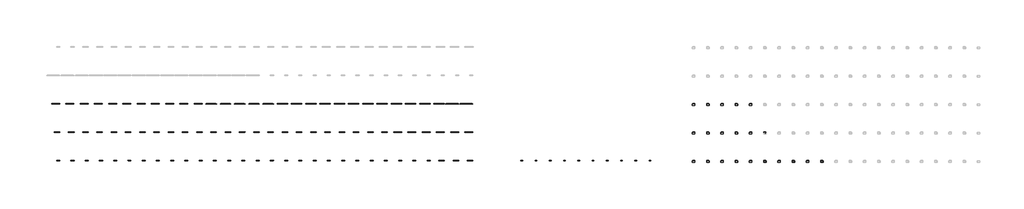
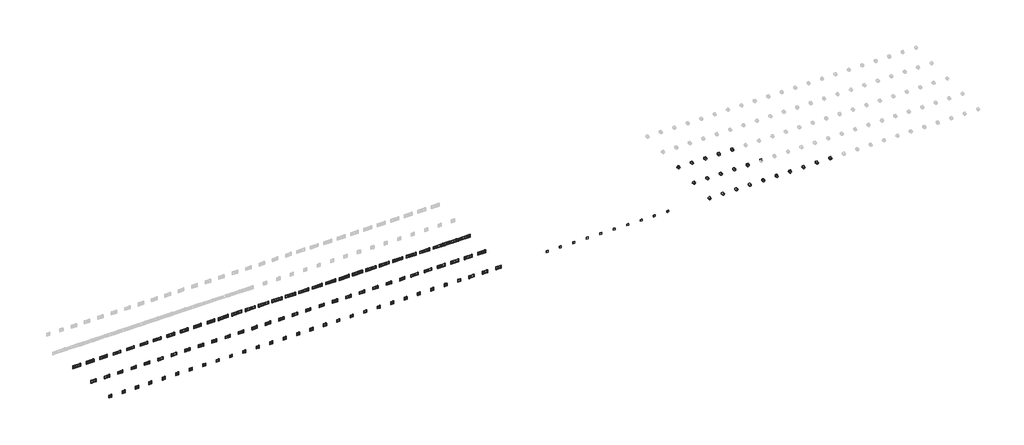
# One storey, part 1 of 18: 121 proxies, 20 cable carrier fittings.
"""IFC4 building model written with IfcOpenShell, lengths in millimetres."""

from ifc_helpers import new_model, si_unit, origin, place, context, project, spatial, transform, mapped, element, save
from components import electrical_fixtures_55454e97, electrical_fixtures_103bd2fc, electrical_fixtures_96edac8a, electrical_fixtures_1388bda7, electrical_fixtures_da87cfc9, electrical_fixtures_1861e07e, electrical_fixtures_9b7fceb6, electrical_fixtures_fd6ee7d0, electrical_fixtures_2faa5ad1, electrical_fixtures_3838953b, electrical_fixtures_1d4d6cfc, electrical_fixtures_3d888c91, electrical_fixtures_f4518cee, electrical_fixtures_062ad867, electrical_fixtures_887a49c7, electrical_fixtures_2bdeffb2, electrical_fixtures_55b0cb72, cable_carrier_fitting_a64d4eba

model = new_model("IFC4")

# Units and contexts
model_context = context("Model", 3, world=origin())
ifc_project = project(units=[si_unit("LENGTHUNIT", "METRE", prefix="MILLI")], contexts=[model_context])

# Site, building, storey
site = spatial("IfcSite", under=ifc_project)
building = spatial("IfcBuilding", under=site)
storey = spatial("IfcBuildingStorey", under=building, Name="Этаж 01", Elevation=0.0)

# Proxies
placement = place(None, origin())
electrical_fixtures_shape = electrical_fixtures_55454e97(model_context)
element("IfcBuildingElementProxy", 1, Name="IEK_Brite_Рамка : x1_РУ-1-Бр беж.-жемч.", ObjectType="IEK_Brite_Рамка : x1_РУ-1-Бр беж.-жемч.", at=placement, inside=storey, context=model_context, shape_type="MappedRepresentation", body=[
    mapped(electrical_fixtures_shape, transform((420.0, -17800.0, 0.0), x_axis=(1.0, 0.0, 0.0), y_axis=(0.0, 1.0, 0.0), z_axis=(0.0, 0.0, 1.0))),
])
element("IfcBuildingElementProxy", 2, Name="IEK_Brite_Рамка : x1_РУ-1-Бр хром-черн.", ObjectType="IEK_Brite_Рамка : x1_РУ-1-Бр хром-черн.", at=placement, inside=storey, context=model_context, shape_type="MappedRepresentation", body=[
    mapped(electrical_fixtures_shape, transform((820.0, -17800.0, 0.0), x_axis=(1.0, 0.0, 0.0), y_axis=(0.0, 1.0, 0.0), z_axis=(0.0, 0.0, 1.0))),
])
element("IfcBuildingElementProxy", 3, Name="IEK_Brite_Рамка : x1_РУ-1-Бр беж.-шамп.", ObjectType="IEK_Brite_Рамка : x1_РУ-1-Бр беж.-шамп.", at=placement, inside=storey, context=model_context, shape_type="MappedRepresentation", body=[
    mapped(electrical_fixtures_shape, transform((1220.0, -17800.0, 0.0), x_axis=(1.0, 0.0, 0.0), y_axis=(0.0, 1.0, 0.0), z_axis=(0.0, 0.0, 1.0))),
])
element("IfcBuildingElementProxy", 4, Name="IEK_Brite_Рамка : x1_РУ-1-Бр бел.-бел.", ObjectType="IEK_Brite_Рамка : x1_РУ-1-Бр бел.-бел.", at=placement, inside=storey, context=model_context, shape_type="MappedRepresentation", body=[
    mapped(electrical_fixtures_shape, transform((1620.0, -17800.0, 0.0), x_axis=(1.0, 0.0, 0.0), y_axis=(0.0, 1.0, 0.0), z_axis=(0.0, 0.0, 1.0))),
])
element("IfcBuildingElementProxy", 5, Name="IEK_Brite_Рамка : x1_РУ-1-Бр алюм.-алюм.", ObjectType="IEK_Brite_Рамка : x1_РУ-1-Бр алюм.-алюм.", at=placement, inside=storey, context=model_context, shape_type="MappedRepresentation", body=[
    mapped(electrical_fixtures_shape, transform((2020.0, -17800.0, 0.0), x_axis=(1.0, 0.0, 0.0), y_axis=(0.0, 1.0, 0.0), z_axis=(0.0, 0.0, 1.0))),
])
electrical_fixtures_2_shape = electrical_fixtures_103bd2fc(model_context)
element("IfcBuildingElementProxy", 6, Name="IEK_Brite_Рамка : x1_РУ-1-БрБ-44 бел.", ObjectType="IEK_Brite_Рамка : x1_РУ-1-БрБ-44 бел.", at=placement, inside=storey, context=model_context, shape_type="MappedRepresentation", body=[
    mapped(electrical_fixtures_2_shape, transform((2420.0, -17800.0, 0.0), x_axis=(1.0, 0.0, 0.0), y_axis=(0.0, 1.0, 0.0), z_axis=(0.0, 0.0, 1.0))),
])
element("IfcBuildingElementProxy", 7, Name="IEK_Brite_Рамка : x1_РУ-1-БрЧ-44 черн.", ObjectType="IEK_Brite_Рамка : x1_РУ-1-БрЧ-44 черн.", at=placement, inside=storey, context=model_context, shape_type="MappedRepresentation", body=[
    mapped(electrical_fixtures_2_shape, transform((2820.0, -17800.0, 0.0), x_axis=(1.0, 0.0, 0.0), y_axis=(0.0, 1.0, 0.0), z_axis=(0.0, 0.0, 1.0))),
])
element("IfcBuildingElementProxy", 8, Name="IEK_Brite_Рамка : x1_РУ-1-БрКр-44 беж.", ObjectType="IEK_Brite_Рамка : x1_РУ-1-БрКр-44 беж.", at=placement, inside=storey, context=model_context, shape_type="MappedRepresentation", body=[
    mapped(electrical_fixtures_2_shape, transform((3220.0, -17800.0, 0.0), x_axis=(1.0, 0.0, 0.0), y_axis=(0.0, 1.0, 0.0), z_axis=(0.0, 0.0, 1.0))),
])
element("IfcBuildingElementProxy", 9, Name="IEK_Brite_Рамка : x1_РУ-1-БрМ-44 мар.", ObjectType="IEK_Brite_Рамка : x1_РУ-1-БрМ-44 мар.", at=placement, inside=storey, context=model_context, shape_type="MappedRepresentation", body=[
    mapped(electrical_fixtures_2_shape, transform((3620.0, -17800.0, 0.0), x_axis=(1.0, 0.0, 0.0), y_axis=(0.0, 1.0, 0.0), z_axis=(0.0, 0.0, 1.0))),
])
element("IfcBuildingElementProxy", 10, Name="IEK_Brite_Рамка : x1_РУ-1-БрЖ-44 жемч.", ObjectType="IEK_Brite_Рамка : x1_РУ-1-БрЖ-44 жемч.", at=placement, inside=storey, context=model_context, shape_type="MappedRepresentation", body=[
    mapped(electrical_fixtures_2_shape, transform((4020.0, -17800.0, 0.0), x_axis=(1.0, 0.0, 0.0), y_axis=(0.0, 1.0, 0.0), z_axis=(0.0, 0.0, 1.0))),
])
element("IfcBuildingElementProxy", 11, Name="IEK_Brite_Рамка : x1_РУ-1-БрШ-44 шамп.", ObjectType="IEK_Brite_Рамка : x1_РУ-1-БрШ-44 шамп.", at=placement, inside=storey, context=model_context, shape_type="MappedRepresentation", body=[
    mapped(electrical_fixtures_2_shape, transform((4420.0, -17800.0, 0.0), x_axis=(1.0, 0.0, 0.0), y_axis=(0.0, 1.0, 0.0), z_axis=(0.0, 0.0, 1.0))),
])
element("IfcBuildingElementProxy", 12, Name="IEK_Brite_Рамка : x1_РУ-1-БрТБ-44 бр.", ObjectType="IEK_Brite_Рамка : x1_РУ-1-БрТБ-44 бр.", at=placement, inside=storey, context=model_context, shape_type="MappedRepresentation", body=[
    mapped(electrical_fixtures_2_shape, transform((4820.0, -17800.0, 0.0), x_axis=(1.0, 0.0, 0.0), y_axis=(0.0, 1.0, 0.0), z_axis=(0.0, 0.0, 1.0))),
])
element("IfcBuildingElementProxy", 13, Name="IEK_Brite_Рамка : x1_РУ-1-БрС-44 сталь", ObjectType="IEK_Brite_Рамка : x1_РУ-1-БрС-44 сталь", at=placement, inside=storey, context=model_context, shape_type="MappedRepresentation", body=[
    mapped(electrical_fixtures_2_shape, transform((5220.0, -17800.0, 0.0), x_axis=(1.0, 0.0, 0.0), y_axis=(0.0, 1.0, 0.0), z_axis=(0.0, 0.0, 1.0))),
])
element("IfcBuildingElementProxy", 14, Name="IEK_Brite_Рамка : x1_РУ-1-БрА-44 алюм.", ObjectType="IEK_Brite_Рамка : x1_РУ-1-БрА-44 алюм.", at=placement, inside=storey, context=model_context, shape_type="MappedRepresentation", body=[
    mapped(electrical_fixtures_2_shape, transform((5620.0, -17800.0, 0.0), x_axis=(1.0, 0.0, 0.0), y_axis=(0.0, 1.0, 0.0), z_axis=(0.0, 0.0, 1.0))),
])
element("IfcBuildingElementProxy", 15, Name="IEK_Brite_Рамка : x1_РУ-1-БрГ-44 граф.", ObjectType="IEK_Brite_Рамка : x1_РУ-1-БрГ-44 граф.", at=placement, inside=storey, context=model_context, shape_type="MappedRepresentation", body=[
    mapped(electrical_fixtures_2_shape, transform((6020.0, -17800.0, 0.0), x_axis=(1.0, 0.0, 0.0), y_axis=(0.0, 1.0, 0.0), z_axis=(0.0, 0.0, 1.0))),
])
electrical_fixtures_3_shape = electrical_fixtures_96edac8a(model_context)
element("IfcBuildingElementProxy", 16, Name="IEK_Brite_Рамка : x1_РУ-1-Бр бел. рифленый", ObjectType="IEK_Brite_Рамка : x1_РУ-1-Бр бел. рифленый", at=placement, inside=storey, context=model_context, shape_type="MappedRepresentation", body=[
    mapped(electrical_fixtures_3_shape, transform((6420.0, -17800.0, 0.0), x_axis=(1.0, 0.0, 0.0), y_axis=(0.0, 1.0, 0.0), z_axis=(0.0, 0.0, 1.0))),
])
element("IfcBuildingElementProxy", 17, Name="IEK_Brite_Рамка : x1_РУ-1-Бр беж. рифленый", ObjectType="IEK_Brite_Рамка : x1_РУ-1-Бр беж. рифленый", at=placement, inside=storey, context=model_context, shape_type="MappedRepresentation", body=[
    mapped(electrical_fixtures_3_shape, transform((6820.0, -17800.0, 0.0), x_axis=(1.0, 0.0, 0.0), y_axis=(0.0, 1.0, 0.0), z_axis=(0.0, 0.0, 1.0))),
])
element("IfcBuildingElementProxy", 18, Name="IEK_Brite_Рамка : x1_РУ-1-БрБ бел.", ObjectType="IEK_Brite_Рамка : x1_РУ-1-БрБ бел.", at=placement, inside=storey, context=model_context, shape_type="MappedRepresentation", body=[
    mapped(electrical_fixtures_2_shape, transform((7220.0, -17800.0, 0.0), x_axis=(1.0, 0.0, 0.0), y_axis=(0.0, 1.0, 0.0), z_axis=(0.0, 0.0, 1.0))),
])
element("IfcBuildingElementProxy", 19, Name="IEK_Brite_Рамка : x1_РУ-1-БрЧ черн.", ObjectType="IEK_Brite_Рамка : x1_РУ-1-БрЧ черн.", at=placement, inside=storey, context=model_context, shape_type="MappedRepresentation", body=[
    mapped(electrical_fixtures_2_shape, transform((7620.0, -17800.0, 0.0), x_axis=(1.0, 0.0, 0.0), y_axis=(0.0, 1.0, 0.0), z_axis=(0.0, 0.0, 1.0))),
])
element("IfcBuildingElementProxy", 20, Name="IEK_Brite_Рамка : x1_РУ-1-БрКр беж.", ObjectType="IEK_Brite_Рамка : x1_РУ-1-БрКр беж.", at=placement, inside=storey, context=model_context, shape_type="MappedRepresentation", body=[
    mapped(electrical_fixtures_2_shape, transform((8020.0, -17800.0, 0.0), x_axis=(1.0, 0.0, 0.0), y_axis=(0.0, 1.0, 0.0), z_axis=(0.0, 0.0, 1.0))),
])
element("IfcBuildingElementProxy", 21, Name="IEK_Brite_Рамка : x1_РУ-1-БрМ мар.", ObjectType="IEK_Brite_Рамка : x1_РУ-1-БрМ мар.", at=placement, inside=storey, context=model_context, shape_type="MappedRepresentation", body=[
    mapped(electrical_fixtures_2_shape, transform((8420.0, -17800.0, 0.0), x_axis=(1.0, 0.0, 0.0), y_axis=(0.0, 1.0, 0.0), z_axis=(0.0, 0.0, 1.0))),
])
element("IfcBuildingElementProxy", 22, Name="IEK_Brite_Рамка : x1_РУ-1-БрЖ жемч.", ObjectType="IEK_Brite_Рамка : x1_РУ-1-БрЖ жемч.", at=placement, inside=storey, context=model_context, shape_type="MappedRepresentation", body=[
    mapped(electrical_fixtures_2_shape, transform((8820.0, -17800.0, 0.0), x_axis=(1.0, 0.0, 0.0), y_axis=(0.0, 1.0, 0.0), z_axis=(0.0, 0.0, 1.0))),
])
element("IfcBuildingElementProxy", 23, Name="IEK_Brite_Рамка : x1_РУ-1-БрШ шамп.", ObjectType="IEK_Brite_Рамка : x1_РУ-1-БрШ шамп.", at=placement, inside=storey, context=model_context, shape_type="MappedRepresentation", body=[
    mapped(electrical_fixtures_2_shape, transform((9220.0, -17800.0, 0.0), x_axis=(1.0, 0.0, 0.0), y_axis=(0.0, 1.0, 0.0), z_axis=(0.0, 0.0, 1.0))),
])
element("IfcBuildingElementProxy", 24, Name="IEK_Brite_Рамка : x1_РУ-1-БрТБ бр.", ObjectType="IEK_Brite_Рамка : x1_РУ-1-БрТБ бр.", at=placement, inside=storey, context=model_context, shape_type="MappedRepresentation", body=[
    mapped(electrical_fixtures_2_shape, transform((9620.0, -17800.0, 0.0), x_axis=(1.0, 0.0, 0.0), y_axis=(0.0, 1.0, 0.0), z_axis=(0.0, 0.0, 1.0))),
])
element("IfcBuildingElementProxy", 25, Name="IEK_Brite_Рамка : x1_РУ-1-БрС сталь", ObjectType="IEK_Brite_Рамка : x1_РУ-1-БрС сталь", at=placement, inside=storey, context=model_context, shape_type="MappedRepresentation", body=[
    mapped(electrical_fixtures_2_shape, transform((10020.0, -17800.0, 0.0), x_axis=(1.0, 0.0, 0.0), y_axis=(0.0, 1.0, 0.0), z_axis=(0.0, 0.0, 1.0))),
])
element("IfcBuildingElementProxy", 26, Name="IEK_Brite_Рамка : x1_РУ-1-БрА алюм.", ObjectType="IEK_Brite_Рамка : x1_РУ-1-БрА алюм.", at=placement, inside=storey, context=model_context, shape_type="MappedRepresentation", body=[
    mapped(electrical_fixtures_2_shape, transform((10420.0, -17800.0, 0.0), x_axis=(1.0, 0.0, 0.0), y_axis=(0.0, 1.0, 0.0), z_axis=(0.0, 0.0, 1.0))),
])
element("IfcBuildingElementProxy", 27, Name="IEK_Brite_Рамка : x1_РУ-1-БрГ граф.", ObjectType="IEK_Brite_Рамка : x1_РУ-1-БрГ граф.", at=placement, inside=storey, context=model_context, shape_type="MappedRepresentation", body=[
    mapped(electrical_fixtures_2_shape, transform((10820.0, -17800.0, 0.0), x_axis=(1.0, 0.0, 0.0), y_axis=(0.0, 1.0, 0.0), z_axis=(0.0, 0.0, 1.0))),
])
electrical_fixtures_4_shape = electrical_fixtures_1388bda7(model_context)
element("IfcBuildingElementProxy", 28, Name="IEK_Brite_Рамка : x2_РУ-2-Бр беж.-жемч.", ObjectType="IEK_Brite_Рамка : x2_РУ-2-Бр беж.-жемч.", at=placement, inside=storey, context=model_context, shape_type="MappedRepresentation", body=[
    mapped(electrical_fixtures_4_shape, transform((11220.0, -17800.0, 0.0), x_axis=(1.0, 0.0, 0.0), y_axis=(0.0, 1.0, 0.0), z_axis=(0.0, 0.0, 1.0))),
])
element("IfcBuildingElementProxy", 29, Name="IEK_Brite_Рамка : x2_РУ-2-Бр хром-черн.", ObjectType="IEK_Brite_Рамка : x2_РУ-2-Бр хром-черн.", at=placement, inside=storey, context=model_context, shape_type="MappedRepresentation", body=[
    mapped(electrical_fixtures_4_shape, transform((11620.0, -17800.0, 0.0), x_axis=(1.0, 0.0, 0.0), y_axis=(0.0, 1.0, 0.0), z_axis=(0.0, 0.0, 1.0))),
])
element("IfcBuildingElementProxy", 30, Name="IEK_Brite_Рамка : x2_РУ-2-Бр беж.-шамп.", ObjectType="IEK_Brite_Рамка : x2_РУ-2-Бр беж.-шамп.", at=placement, inside=storey, context=model_context, shape_type="MappedRepresentation", body=[
    mapped(electrical_fixtures_4_shape, transform((12020.0, -17800.0, 0.0), x_axis=(1.0, 0.0, 0.0), y_axis=(0.0, 1.0, 0.0), z_axis=(0.0, 0.0, 1.0))),
])
element("IfcBuildingElementProxy", 31, Name="IEK_Brite_Рамка : x2_РУ-2-Бр бел.-бел.", ObjectType="IEK_Brite_Рамка : x2_РУ-2-Бр бел.-бел.", at=placement, inside=storey, context=model_context, shape_type="MappedRepresentation", body=[
    mapped(electrical_fixtures_4_shape, transform((420.0, -17000.0, 0.0), x_axis=(1.0, 0.0, 0.0), y_axis=(0.0, 1.0, 0.0), z_axis=(0.0, 0.0, 1.0))),
])
element("IfcBuildingElementProxy", 32, Name="IEK_Brite_Рамка : x2_РУ-2-Бр алюм.-алюм.", ObjectType="IEK_Brite_Рамка : x2_РУ-2-Бр алюм.-алюм.", at=placement, inside=storey, context=model_context, shape_type="MappedRepresentation", body=[
    mapped(electrical_fixtures_4_shape, transform((820.0, -17000.0, 0.0), x_axis=(1.0, 0.0, 0.0), y_axis=(0.0, 1.0, 0.0), z_axis=(0.0, 0.0, 1.0))),
])
electrical_fixtures_5_shape = electrical_fixtures_da87cfc9(model_context)
element("IfcBuildingElementProxy", 33, Name="IEK_Brite_Рамка : x2_РУ-2-БрБ-44 бел.", ObjectType="IEK_Brite_Рамка : x2_РУ-2-БрБ-44 бел.", at=placement, inside=storey, context=model_context, shape_type="MappedRepresentation", body=[
    mapped(electrical_fixtures_5_shape, transform((1220.0, -17000.0, 0.0), x_axis=(1.0, 0.0, 0.0), y_axis=(0.0, 1.0, 0.0), z_axis=(0.0, 0.0, 1.0))),
])
element("IfcBuildingElementProxy", 34, Name="IEK_Brite_Рамка : x2_РУ-2-БрЧ-44 черн.", ObjectType="IEK_Brite_Рамка : x2_РУ-2-БрЧ-44 черн.", at=placement, inside=storey, context=model_context, shape_type="MappedRepresentation", body=[
    mapped(electrical_fixtures_5_shape, transform((1620.0, -17000.0, 0.0), x_axis=(1.0, 0.0, 0.0), y_axis=(0.0, 1.0, 0.0), z_axis=(0.0, 0.0, 1.0))),
])
element("IfcBuildingElementProxy", 35, Name="IEK_Brite_Рамка : x2_РУ-2-БрКр-44 беж.", ObjectType="IEK_Brite_Рамка : x2_РУ-2-БрКр-44 беж.", at=placement, inside=storey, context=model_context, shape_type="MappedRepresentation", body=[
    mapped(electrical_fixtures_5_shape, transform((2020.0, -17000.0, 0.0), x_axis=(1.0, 0.0, 0.0), y_axis=(0.0, 1.0, 0.0), z_axis=(0.0, 0.0, 1.0))),
])
element("IfcBuildingElementProxy", 36, Name="IEK_Brite_Рамка : x2_РУ-2-БрМ-44 мар.", ObjectType="IEK_Brite_Рамка : x2_РУ-2-БрМ-44 мар.", at=placement, inside=storey, context=model_context, shape_type="MappedRepresentation", body=[
    mapped(electrical_fixtures_5_shape, transform((2420.0, -17000.0, 0.0), x_axis=(1.0, 0.0, 0.0), y_axis=(0.0, 1.0, 0.0), z_axis=(0.0, 0.0, 1.0))),
])
element("IfcBuildingElementProxy", 37, Name="IEK_Brite_Рамка : x2_РУ-2-БрЖ-44 жемч.", ObjectType="IEK_Brite_Рамка : x2_РУ-2-БрЖ-44 жемч.", at=placement, inside=storey, context=model_context, shape_type="MappedRepresentation", body=[
    mapped(electrical_fixtures_5_shape, transform((2820.0, -17000.0, 0.0), x_axis=(1.0, 0.0, 0.0), y_axis=(0.0, 1.0, 0.0), z_axis=(0.0, 0.0, 1.0))),
])
element("IfcBuildingElementProxy", 38, Name="IEK_Brite_Рамка : x2_РУ-2-БрШ-44 шамп.", ObjectType="IEK_Brite_Рамка : x2_РУ-2-БрШ-44 шамп.", at=placement, inside=storey, context=model_context, shape_type="MappedRepresentation", body=[
    mapped(electrical_fixtures_5_shape, transform((3220.0, -17000.0, 0.0), x_axis=(1.0, 0.0, 0.0), y_axis=(0.0, 1.0, 0.0), z_axis=(0.0, 0.0, 1.0))),
])
element("IfcBuildingElementProxy", 39, Name="IEK_Brite_Рамка : x2_РУ-2-БрТБ-44 бр.", ObjectType="IEK_Brite_Рамка : x2_РУ-2-БрТБ-44 бр.", at=placement, inside=storey, context=model_context, shape_type="MappedRepresentation", body=[
    mapped(electrical_fixtures_5_shape, transform((3620.0, -17000.0, 0.0), x_axis=(1.0, 0.0, 0.0), y_axis=(0.0, 1.0, 0.0), z_axis=(0.0, 0.0, 1.0))),
])
element("IfcBuildingElementProxy", 40, Name="IEK_Brite_Рамка : x2_РУ-2-БрС-44 сталь", ObjectType="IEK_Brite_Рамка : x2_РУ-2-БрС-44 сталь", at=placement, inside=storey, context=model_context, shape_type="MappedRepresentation", body=[
    mapped(electrical_fixtures_5_shape, transform((4020.0, -17000.0, 0.0), x_axis=(1.0, 0.0, 0.0), y_axis=(0.0, 1.0, 0.0), z_axis=(0.0, 0.0, 1.0))),
])
element("IfcBuildingElementProxy", 41, Name="IEK_Brite_Рамка : x2_РУ-2-БрА-44 алюм.", ObjectType="IEK_Brite_Рамка : x2_РУ-2-БрА-44 алюм.", at=placement, inside=storey, context=model_context, shape_type="MappedRepresentation", body=[
    mapped(electrical_fixtures_5_shape, transform((4420.0, -17000.0, 0.0), x_axis=(1.0, 0.0, 0.0), y_axis=(0.0, 1.0, 0.0), z_axis=(0.0, 0.0, 1.0))),
])
element("IfcBuildingElementProxy", 42, Name="IEK_Brite_Рамка : x2_РУ-2-БрГ-44 граф.", ObjectType="IEK_Brite_Рамка : x2_РУ-2-БрГ-44 граф.", at=placement, inside=storey, context=model_context, shape_type="MappedRepresentation", body=[
    mapped(electrical_fixtures_5_shape, transform((4820.0, -17000.0, 0.0), x_axis=(1.0, 0.0, 0.0), y_axis=(0.0, 1.0, 0.0), z_axis=(0.0, 0.0, 1.0))),
])
electrical_fixtures_6_shape = electrical_fixtures_1861e07e(model_context)
element("IfcBuildingElementProxy", 43, Name="IEK_Brite_Рамка : x2_РУ-2-Бр бел. рифленый", ObjectType="IEK_Brite_Рамка : x2_РУ-2-Бр бел. рифленый", at=placement, inside=storey, context=model_context, shape_type="MappedRepresentation", body=[
    mapped(electrical_fixtures_6_shape, transform((5220.0, -17000.0, 0.0), x_axis=(1.0, 0.0, 0.0), y_axis=(0.0, 1.0, 0.0), z_axis=(0.0, 0.0, 1.0))),
])
element("IfcBuildingElementProxy", 44, Name="IEK_Brite_Рамка : x2_РУ-2-Бр беж. рифленый", ObjectType="IEK_Brite_Рамка : x2_РУ-2-Бр беж. рифленый", at=placement, inside=storey, context=model_context, shape_type="MappedRepresentation", body=[
    mapped(electrical_fixtures_6_shape, transform((5620.0, -17000.0, 0.0), x_axis=(1.0, 0.0, 0.0), y_axis=(0.0, 1.0, 0.0), z_axis=(0.0, 0.0, 1.0))),
])
element("IfcBuildingElementProxy", 45, Name="IEK_Brite_Рамка : x2_РУ-2-БрБ бел.", ObjectType="IEK_Brite_Рамка : x2_РУ-2-БрБ бел.", at=placement, inside=storey, context=model_context, shape_type="MappedRepresentation", body=[
    mapped(electrical_fixtures_5_shape, transform((6020.0, -17000.0, 0.0), x_axis=(1.0, 0.0, 0.0), y_axis=(0.0, 1.0, 0.0), z_axis=(0.0, 0.0, 1.0))),
])
element("IfcBuildingElementProxy", 46, Name="IEK_Brite_Рамка : x2_РУ-2-БрЧ черн.", ObjectType="IEK_Brite_Рамка : x2_РУ-2-БрЧ черн.", at=placement, inside=storey, context=model_context, shape_type="MappedRepresentation", body=[
    mapped(electrical_fixtures_5_shape, transform((6420.0, -17000.0, 0.0), x_axis=(1.0, 0.0, 0.0), y_axis=(0.0, 1.0, 0.0), z_axis=(0.0, 0.0, 1.0))),
])
element("IfcBuildingElementProxy", 47, Name="IEK_Brite_Рамка : x2_РУ-2-БрКр беж.", ObjectType="IEK_Brite_Рамка : x2_РУ-2-БрКр беж.", at=placement, inside=storey, context=model_context, shape_type="MappedRepresentation", body=[
    mapped(electrical_fixtures_5_shape, transform((6820.0, -17000.0, 0.0), x_axis=(1.0, 0.0, 0.0), y_axis=(0.0, 1.0, 0.0), z_axis=(0.0, 0.0, 1.0))),
])
element("IfcBuildingElementProxy", 48, Name="IEK_Brite_Рамка : x2_РУ-2-БрМ мар.", ObjectType="IEK_Brite_Рамка : x2_РУ-2-БрМ мар.", at=placement, inside=storey, context=model_context, shape_type="MappedRepresentation", body=[
    mapped(electrical_fixtures_5_shape, transform((7220.0, -17000.0, 0.0), x_axis=(1.0, 0.0, 0.0), y_axis=(0.0, 1.0, 0.0), z_axis=(0.0, 0.0, 1.0))),
])
element("IfcBuildingElementProxy", 49, Name="IEK_Brite_Рамка : x2_РУ-2-БрЖ жемч.", ObjectType="IEK_Brite_Рамка : x2_РУ-2-БрЖ жемч.", at=placement, inside=storey, context=model_context, shape_type="MappedRepresentation", body=[
    mapped(electrical_fixtures_5_shape, transform((7620.0, -17000.0, 0.0), x_axis=(1.0, 0.0, 0.0), y_axis=(0.0, 1.0, 0.0), z_axis=(0.0, 0.0, 1.0))),
])
element("IfcBuildingElementProxy", 50, Name="IEK_Brite_Рамка : x2_РУ-2-БрШ шамп.", ObjectType="IEK_Brite_Рамка : x2_РУ-2-БрШ шамп.", at=placement, inside=storey, context=model_context, shape_type="MappedRepresentation", body=[
    mapped(electrical_fixtures_5_shape, transform((8020.0, -17000.0, 0.0), x_axis=(1.0, 0.0, 0.0), y_axis=(0.0, 1.0, 0.0), z_axis=(0.0, 0.0, 1.0))),
])
element("IfcBuildingElementProxy", 51, Name="IEK_Brite_Рамка : x2_РУ-2-БрТБ бр.", ObjectType="IEK_Brite_Рамка : x2_РУ-2-БрТБ бр.", at=placement, inside=storey, context=model_context, shape_type="MappedRepresentation", body=[
    mapped(electrical_fixtures_5_shape, transform((8420.0, -17000.0, 0.0), x_axis=(1.0, 0.0, 0.0), y_axis=(0.0, 1.0, 0.0), z_axis=(0.0, 0.0, 1.0))),
])
element("IfcBuildingElementProxy", 52, Name="IEK_Brite_Рамка : x2_РУ-2-БрС сталь", ObjectType="IEK_Brite_Рамка : x2_РУ-2-БрС сталь", at=placement, inside=storey, context=model_context, shape_type="MappedRepresentation", body=[
    mapped(electrical_fixtures_5_shape, transform((8820.0, -17000.0, 0.0), x_axis=(1.0, 0.0, 0.0), y_axis=(0.0, 1.0, 0.0), z_axis=(0.0, 0.0, 1.0))),
])
element("IfcBuildingElementProxy", 53, Name="IEK_Brite_Рамка : x2_РУ-2-БрА алюм.", ObjectType="IEK_Brite_Рамка : x2_РУ-2-БрА алюм.", at=placement, inside=storey, context=model_context, shape_type="MappedRepresentation", body=[
    mapped(electrical_fixtures_5_shape, transform((9220.0, -17000.0, 0.0), x_axis=(1.0, 0.0, 0.0), y_axis=(0.0, 1.0, 0.0), z_axis=(0.0, 0.0, 1.0))),
])
element("IfcBuildingElementProxy", 54, Name="IEK_Brite_Рамка : x2_РУ-2-БрГ граф.", ObjectType="IEK_Brite_Рамка : x2_РУ-2-БрГ граф.", at=placement, inside=storey, context=model_context, shape_type="MappedRepresentation", body=[
    mapped(electrical_fixtures_5_shape, transform((9620.0, -17000.0, 0.0), x_axis=(1.0, 0.0, 0.0), y_axis=(0.0, 1.0, 0.0), z_axis=(0.0, 0.0, 1.0))),
])
electrical_fixtures_7_shape = electrical_fixtures_9b7fceb6(model_context)
element("IfcBuildingElementProxy", 55, Name="IEK_Brite_Рамка : x3_РУ-3-Бр беж.-жемч.", ObjectType="IEK_Brite_Рамка : x3_РУ-3-Бр беж.-жемч.", at=placement, inside=storey, context=model_context, shape_type="MappedRepresentation", body=[
    mapped(electrical_fixtures_7_shape, transform((10020.0, -17000.0, 0.0), x_axis=(1.0, 0.0, 0.0), y_axis=(0.0, 1.0, 0.0), z_axis=(0.0, 0.0, 1.0))),
])
element("IfcBuildingElementProxy", 56, Name="IEK_Brite_Рамка : x2_РУ-3-Бр хром-черн.", ObjectType="IEK_Brite_Рамка : x2_РУ-3-Бр хром-черн.", at=placement, inside=storey, context=model_context, shape_type="MappedRepresentation", body=[
    mapped(electrical_fixtures_7_shape, transform((10420.0, -17000.0, 0.0), x_axis=(1.0, 0.0, 0.0), y_axis=(0.0, 1.0, 0.0), z_axis=(0.0, 0.0, 1.0))),
])
element("IfcBuildingElementProxy", 57, Name="IEK_Brite_Рамка : x3_РУ-3-Бр беж.-шамп.", ObjectType="IEK_Brite_Рамка : x3_РУ-3-Бр беж.-шамп.", at=placement, inside=storey, context=model_context, shape_type="MappedRepresentation", body=[
    mapped(electrical_fixtures_7_shape, transform((10820.0, -17000.0, 0.0), x_axis=(1.0, 0.0, 0.0), y_axis=(0.0, 1.0, 0.0), z_axis=(0.0, 0.0, 1.0))),
])
element("IfcBuildingElementProxy", 58, Name="IEK_Brite_Рамка : x2_РУ-3-Бр бел.-бел.", ObjectType="IEK_Brite_Рамка : x2_РУ-3-Бр бел.-бел.", at=placement, inside=storey, context=model_context, shape_type="MappedRepresentation", body=[
    mapped(electrical_fixtures_7_shape, transform((11220.0, -17000.0, 0.0), x_axis=(1.0, 0.0, 0.0), y_axis=(0.0, 1.0, 0.0), z_axis=(0.0, 0.0, 1.0))),
])
element("IfcBuildingElementProxy", 59, Name="IEK_Brite_Рамка : x3_РУ-3-Бр алюм.-алюм.", ObjectType="IEK_Brite_Рамка : x3_РУ-3-Бр алюм.-алюм.", at=placement, inside=storey, context=model_context, shape_type="MappedRepresentation", body=[
    mapped(electrical_fixtures_7_shape, transform((11620.0, -17000.0, 0.0), x_axis=(1.0, 0.0, 0.0), y_axis=(0.0, 1.0, 0.0), z_axis=(0.0, 0.0, 1.0))),
])
electrical_fixtures_8_shape = electrical_fixtures_fd6ee7d0(model_context)
element("IfcBuildingElementProxy", 60, Name="IEK_Brite_Рамка : x2_РУ-3-Бр бел. рифленый", ObjectType="IEK_Brite_Рамка : x2_РУ-3-Бр бел. рифленый", at=placement, inside=storey, context=model_context, shape_type="MappedRepresentation", body=[
    mapped(electrical_fixtures_8_shape, transform((12020.0, -17000.0, 0.0), x_axis=(1.0, 0.0, 0.0), y_axis=(0.0, 1.0, 0.0), z_axis=(0.0, 0.0, 1.0))),
])
element("IfcBuildingElementProxy", 61, Name="IEK_Brite_Рамка : x3_РУ-3-Бр беж. рифленый", ObjectType="IEK_Brite_Рамка : x3_РУ-3-Бр беж. рифленый", at=placement, inside=storey, context=model_context, shape_type="MappedRepresentation", body=[
    mapped(electrical_fixtures_8_shape, transform((420.0, -16200.0, 0.0), x_axis=(1.0, 0.0, 0.0), y_axis=(0.0, 1.0, 0.0), z_axis=(0.0, 0.0, 1.0))),
])
electrical_fixtures_9_shape = electrical_fixtures_2faa5ad1(model_context)
element("IfcBuildingElementProxy", 62, Name="IEK_Brite_Рамка : x2_РУ-3-БрБ бел.", ObjectType="IEK_Brite_Рамка : x2_РУ-3-БрБ бел.", at=placement, inside=storey, context=model_context, shape_type="MappedRepresentation", body=[
    mapped(electrical_fixtures_9_shape, transform((820.0, -16200.0, 0.0), x_axis=(1.0, 0.0, 0.0), y_axis=(0.0, 1.0, 0.0), z_axis=(0.0, 0.0, 1.0))),
])
element("IfcBuildingElementProxy", 63, Name="IEK_Brite_Рамка : x3_РУ-3-БрЧ черн.", ObjectType="IEK_Brite_Рамка : x3_РУ-3-БрЧ черн.", at=placement, inside=storey, context=model_context, shape_type="MappedRepresentation", body=[
    mapped(electrical_fixtures_9_shape, transform((1220.0, -16200.0, 0.0), x_axis=(1.0, 0.0, 0.0), y_axis=(0.0, 1.0, 0.0), z_axis=(0.0, 0.0, 1.0))),
])
element("IfcBuildingElementProxy", 64, Name="IEK_Brite_Рамка : x2_РУ-3-БрКр беж.", ObjectType="IEK_Brite_Рамка : x2_РУ-3-БрКр беж.", at=placement, inside=storey, context=model_context, shape_type="MappedRepresentation", body=[
    mapped(electrical_fixtures_9_shape, transform((1620.0, -16200.0, 0.0), x_axis=(1.0, 0.0, 0.0), y_axis=(0.0, 1.0, 0.0), z_axis=(0.0, 0.0, 1.0))),
])
element("IfcBuildingElementProxy", 65, Name="IEK_Brite_Рамка : x3_РУ-3-БрМ мар.", ObjectType="IEK_Brite_Рамка : x3_РУ-3-БрМ мар.", at=placement, inside=storey, context=model_context, shape_type="MappedRepresentation", body=[
    mapped(electrical_fixtures_9_shape, transform((2020.0, -16200.0, 0.0), x_axis=(1.0, 0.0, 0.0), y_axis=(0.0, 1.0, 0.0), z_axis=(0.0, 0.0, 1.0))),
])
element("IfcBuildingElementProxy", 66, Name="IEK_Brite_Рамка : x2_РУ-3-БрЖ жемч.", ObjectType="IEK_Brite_Рамка : x2_РУ-3-БрЖ жемч.", at=placement, inside=storey, context=model_context, shape_type="MappedRepresentation", body=[
    mapped(electrical_fixtures_9_shape, transform((2420.0, -16200.0, 0.0), x_axis=(1.0, 0.0, 0.0), y_axis=(0.0, 1.0, 0.0), z_axis=(0.0, 0.0, 1.0))),
])
element("IfcBuildingElementProxy", 67, Name="IEK_Brite_Рамка : x3_РУ-3-БрШ шамп.", ObjectType="IEK_Brite_Рамка : x3_РУ-3-БрШ шамп.", at=placement, inside=storey, context=model_context, shape_type="MappedRepresentation", body=[
    mapped(electrical_fixtures_9_shape, transform((2820.0, -16200.0, 0.0), x_axis=(1.0, 0.0, 0.0), y_axis=(0.0, 1.0, 0.0), z_axis=(0.0, 0.0, 1.0))),
])
element("IfcBuildingElementProxy", 68, Name="IEK_Brite_Рамка : x2_РУ-3-БрТБ бр.", ObjectType="IEK_Brite_Рамка : x2_РУ-3-БрТБ бр.", at=placement, inside=storey, context=model_context, shape_type="MappedRepresentation", body=[
    mapped(electrical_fixtures_9_shape, transform((3220.0, -16200.0, 0.0), x_axis=(1.0, 0.0, 0.0), y_axis=(0.0, 1.0, 0.0), z_axis=(0.0, 0.0, 1.0))),
])
element("IfcBuildingElementProxy", 69, Name="IEK_Brite_Рамка : x3_РУ-3-БрС сталь", ObjectType="IEK_Brite_Рамка : x3_РУ-3-БрС сталь", at=placement, inside=storey, context=model_context, shape_type="MappedRepresentation", body=[
    mapped(electrical_fixtures_9_shape, transform((3620.0, -16200.0, 0.0), x_axis=(1.0, 0.0, 0.0), y_axis=(0.0, 1.0, 0.0), z_axis=(0.0, 0.0, 1.0))),
])
element("IfcBuildingElementProxy", 70, Name="IEK_Brite_Рамка : x2_РУ-3-БрА алюм.", ObjectType="IEK_Brite_Рамка : x2_РУ-3-БрА алюм.", at=placement, inside=storey, context=model_context, shape_type="MappedRepresentation", body=[
    mapped(electrical_fixtures_9_shape, transform((4020.0, -16200.0, 0.0), x_axis=(1.0, 0.0, 0.0), y_axis=(0.0, 1.0, 0.0), z_axis=(0.0, 0.0, 1.0))),
])
element("IfcBuildingElementProxy", 71, Name="IEK_Brite_Рамка : x3_РУ-3-БрГ граф.", ObjectType="IEK_Brite_Рамка : x3_РУ-3-БрГ граф.", at=placement, inside=storey, context=model_context, shape_type="MappedRepresentation", body=[
    mapped(electrical_fixtures_9_shape, transform((4420.0, -16200.0, 0.0), x_axis=(1.0, 0.0, 0.0), y_axis=(0.0, 1.0, 0.0), z_axis=(0.0, 0.0, 1.0))),
])
electrical_fixtures_10_shape = electrical_fixtures_3838953b(model_context)
element("IfcBuildingElementProxy", 72, Name="IEK_Brite_Рамка : x4_РУ-4-Бр беж.-жемч.", ObjectType="IEK_Brite_Рамка : x4_РУ-4-Бр беж.-жемч.", at=placement, inside=storey, context=model_context, shape_type="MappedRepresentation", body=[
    mapped(electrical_fixtures_10_shape, transform((4820.0, -16200.0, 0.0), x_axis=(1.0, 0.0, 0.0), y_axis=(0.0, 1.0, 0.0), z_axis=(0.0, 0.0, 1.0))),
])
element("IfcBuildingElementProxy", 73, Name="IEK_Brite_Рамка : x4_РУ-4-Бр хром-черн.", ObjectType="IEK_Brite_Рамка : x4_РУ-4-Бр хром-черн.", at=placement, inside=storey, context=model_context, shape_type="MappedRepresentation", body=[
    mapped(electrical_fixtures_10_shape, transform((5220.0, -16200.0, 0.0), x_axis=(1.0, 0.0, 0.0), y_axis=(0.0, 1.0, 0.0), z_axis=(0.0, 0.0, 1.0))),
])
element("IfcBuildingElementProxy", 74, Name="IEK_Brite_Рамка : x4_РУ-4-Бр беж.-шамп.", ObjectType="IEK_Brite_Рамка : x4_РУ-4-Бр беж.-шамп.", at=placement, inside=storey, context=model_context, shape_type="MappedRepresentation", body=[
    mapped(electrical_fixtures_10_shape, transform((5620.0, -16200.0, 0.0), x_axis=(1.0, 0.0, 0.0), y_axis=(0.0, 1.0, 0.0), z_axis=(0.0, 0.0, 1.0))),
])
element("IfcBuildingElementProxy", 75, Name="IEK_Brite_Рамка : x4_РУ-4-Бр бел.-бел.", ObjectType="IEK_Brite_Рамка : x4_РУ-4-Бр бел.-бел.", at=placement, inside=storey, context=model_context, shape_type="MappedRepresentation", body=[
    mapped(electrical_fixtures_10_shape, transform((6020.0, -16200.0, 0.0), x_axis=(1.0, 0.0, 0.0), y_axis=(0.0, 1.0, 0.0), z_axis=(0.0, 0.0, 1.0))),
])
element("IfcBuildingElementProxy", 76, Name="IEK_Brite_Рамка : x4_РУ-4-Бр алюм.-алюм.", ObjectType="IEK_Brite_Рамка : x4_РУ-4-Бр алюм.-алюм.", at=placement, inside=storey, context=model_context, shape_type="MappedRepresentation", body=[
    mapped(electrical_fixtures_10_shape, transform((6420.0, -16200.0, 0.0), x_axis=(1.0, 0.0, 0.0), y_axis=(0.0, 1.0, 0.0), z_axis=(0.0, 0.0, 1.0))),
])
electrical_fixtures_11_shape = electrical_fixtures_1d4d6cfc(model_context)
element("IfcBuildingElementProxy", 77, Name="IEK_Brite_Рамка : x4_РУ-4-Бр бел. рифленый", ObjectType="IEK_Brite_Рамка : x4_РУ-4-Бр бел. рифленый", at=placement, inside=storey, context=model_context, shape_type="MappedRepresentation", body=[
    mapped(electrical_fixtures_11_shape, transform((6820.0, -16200.0, 0.0), x_axis=(1.0, 0.0, 0.0), y_axis=(0.0, 1.0, 0.0), z_axis=(0.0, 0.0, 1.0))),
])
element("IfcBuildingElementProxy", 78, Name="IEK_Brite_Рамка : x4_РУ-4-Бр беж. рифленый", ObjectType="IEK_Brite_Рамка : x4_РУ-4-Бр беж. рифленый", at=placement, inside=storey, context=model_context, shape_type="MappedRepresentation", body=[
    mapped(electrical_fixtures_11_shape, transform((7220.0, -16200.0, 0.0), x_axis=(1.0, 0.0, 0.0), y_axis=(0.0, 1.0, 0.0), z_axis=(0.0, 0.0, 1.0))),
])
electrical_fixtures_12_shape = electrical_fixtures_3d888c91(model_context)
element("IfcBuildingElementProxy", 79, Name="IEK_Brite_Рамка : x4_РУ-4-БрБ бел.", ObjectType="IEK_Brite_Рамка : x4_РУ-4-БрБ бел.", at=placement, inside=storey, context=model_context, shape_type="MappedRepresentation", body=[
    mapped(electrical_fixtures_12_shape, transform((7620.0, -16200.0, 0.0), x_axis=(1.0, 0.0, 0.0), y_axis=(0.0, 1.0, 0.0), z_axis=(0.0, 0.0, 1.0))),
])
element("IfcBuildingElementProxy", 80, Name="IEK_Brite_Рамка : x4_РУ-4-БрЧ черн.", ObjectType="IEK_Brite_Рамка : x4_РУ-4-БрЧ черн.", at=placement, inside=storey, context=model_context, shape_type="MappedRepresentation", body=[
    mapped(electrical_fixtures_12_shape, transform((8020.0, -16200.0, 0.0), x_axis=(1.0, 0.0, 0.0), y_axis=(0.0, 1.0, 0.0), z_axis=(0.0, 0.0, 1.0))),
])
element("IfcBuildingElementProxy", 81, Name="IEK_Brite_Рамка : x4_РУ-4-БрКр беж.", ObjectType="IEK_Brite_Рамка : x4_РУ-4-БрКр беж.", at=placement, inside=storey, context=model_context, shape_type="MappedRepresentation", body=[
    mapped(electrical_fixtures_12_shape, transform((8420.0, -16200.0, 0.0), x_axis=(1.0, 0.0, 0.0), y_axis=(0.0, 1.0, 0.0), z_axis=(0.0, 0.0, 1.0))),
])
element("IfcBuildingElementProxy", 82, Name="IEK_Brite_Рамка : x4_РУ-4-БрМ мар.", ObjectType="IEK_Brite_Рамка : x4_РУ-4-БрМ мар.", at=placement, inside=storey, context=model_context, shape_type="MappedRepresentation", body=[
    mapped(electrical_fixtures_12_shape, transform((8820.0, -16200.0, 0.0), x_axis=(1.0, 0.0, 0.0), y_axis=(0.0, 1.0, 0.0), z_axis=(0.0, 0.0, 1.0))),
])
element("IfcBuildingElementProxy", 83, Name="IEK_Brite_Рамка : x4_РУ-4-БрЖ жемч.", ObjectType="IEK_Brite_Рамка : x4_РУ-4-БрЖ жемч.", at=placement, inside=storey, context=model_context, shape_type="MappedRepresentation", body=[
    mapped(electrical_fixtures_12_shape, transform((9220.0, -16200.0, 0.0), x_axis=(1.0, 0.0, 0.0), y_axis=(0.0, 1.0, 0.0), z_axis=(0.0, 0.0, 1.0))),
])
element("IfcBuildingElementProxy", 84, Name="IEK_Brite_Рамка : x4_РУ-4-БрШ шамп.", ObjectType="IEK_Brite_Рамка : x4_РУ-4-БрШ шамп.", at=placement, inside=storey, context=model_context, shape_type="MappedRepresentation", body=[
    mapped(electrical_fixtures_12_shape, transform((9620.0, -16200.0, 0.0), x_axis=(1.0, 0.0, 0.0), y_axis=(0.0, 1.0, 0.0), z_axis=(0.0, 0.0, 1.0))),
])
element("IfcBuildingElementProxy", 85, Name="IEK_Brite_Рамка : x4_РУ-4-БрТБ бр.", ObjectType="IEK_Brite_Рамка : x4_РУ-4-БрТБ бр.", at=placement, inside=storey, context=model_context, shape_type="MappedRepresentation", body=[
    mapped(electrical_fixtures_12_shape, transform((10020.0, -16200.0, 0.0), x_axis=(1.0, 0.0, 0.0), y_axis=(0.0, 1.0, 0.0), z_axis=(0.0, 0.0, 1.0))),
])
element("IfcBuildingElementProxy", 86, Name="IEK_Brite_Рамка : x4_РУ-4-БрС сталь", ObjectType="IEK_Brite_Рамка : x4_РУ-4-БрС сталь", at=placement, inside=storey, context=model_context, shape_type="MappedRepresentation", body=[
    mapped(electrical_fixtures_12_shape, transform((10420.0, -16200.0, 0.0), x_axis=(1.0, 0.0, 0.0), y_axis=(0.0, 1.0, 0.0), z_axis=(0.0, 0.0, 1.0))),
])
element("IfcBuildingElementProxy", 87, Name="IEK_Brite_Рамка : x4_РУ-4-БрА алюм.", ObjectType="IEK_Brite_Рамка : x4_РУ-4-БрА алюм.", at=placement, inside=storey, context=model_context, shape_type="MappedRepresentation", body=[
    mapped(electrical_fixtures_12_shape, transform((10820.0, -16200.0, 0.0), x_axis=(1.0, 0.0, 0.0), y_axis=(0.0, 1.0, 0.0), z_axis=(0.0, 0.0, 1.0))),
])
element("IfcBuildingElementProxy", 88, Name="IEK_Brite_Рамка : x4_РУ-4-БрГ граф.", ObjectType="IEK_Brite_Рамка : x4_РУ-4-БрГ граф.", at=placement, inside=storey, context=model_context, shape_type="MappedRepresentation", body=[
    mapped(electrical_fixtures_12_shape, transform((11220.0, -16200.0, 0.0), x_axis=(1.0, 0.0, 0.0), y_axis=(0.0, 1.0, 0.0), z_axis=(0.0, 0.0, 1.0))),
])
electrical_fixtures_13_shape = electrical_fixtures_f4518cee(model_context)
element("IfcBuildingElementProxy", 89, Name="IEK_Brite_Рамка : x5_РУ-5-Бр беж.-жемч.", ObjectType="IEK_Brite_Рамка : x5_РУ-5-Бр беж.-жемч.", at=placement, inside=storey, context=model_context, shape_type="MappedRepresentation", body=[
    mapped(electrical_fixtures_13_shape, transform((11620.0, -16200.0, 0.0), x_axis=(1.0, 0.0, 0.0), y_axis=(0.0, 1.0, 0.0), z_axis=(0.0, 0.0, 1.0))),
])
element("IfcBuildingElementProxy", 90, Name="IEK_Brite_Рамка : x5_РУ-5-Бр хром-черн.", ObjectType="IEK_Brite_Рамка : x5_РУ-5-Бр хром-черн.", at=placement, inside=storey, context=model_context, shape_type="MappedRepresentation", body=[
    mapped(electrical_fixtures_13_shape, transform((12020.0, -16200.0, 0.0), x_axis=(1.0, 0.0, 0.0), y_axis=(0.0, 1.0, 0.0), z_axis=(0.0, 0.0, 1.0))),
])
electrical_fixtures_14_shape = electrical_fixtures_062ad867(model_context)
element("IfcBuildingElementProxy", 91, Name="IEK_Brite_Заглушка с суппортом : МЗ10-БрА", ObjectType="IEK_Brite_Заглушка с суппортом : МЗ10-БрА", at=placement, inside=storey, context=model_context, shape_type="MappedRepresentation", body=[
    mapped(electrical_fixtures_14_shape, transform((13434.3368019, -17800.0, 0.0), x_axis=(1.0, 0.0, 0.0), y_axis=(0.0, 1.0, 0.0), z_axis=(0.0, 0.0, 1.0))),
])
element("IfcBuildingElementProxy", 92, Name="IEK_Brite_Заглушка с суппортом : МЗ10-БрЧ", ObjectType="IEK_Brite_Заглушка с суппортом : МЗ10-БрЧ", at=placement, inside=storey, context=model_context, shape_type="MappedRepresentation", body=[
    mapped(electrical_fixtures_14_shape, transform((13834.3368019, -17800.0, 0.0), x_axis=(1.0, 0.0, 0.0), y_axis=(0.0, 1.0, 0.0), z_axis=(0.0, 0.0, 1.0))),
])
element("IfcBuildingElementProxy", 93, Name="IEK_Brite_Заглушка с суппортом : МЗ10-БрКр", ObjectType="IEK_Brite_Заглушка с суппортом : МЗ10-БрКр", at=placement, inside=storey, context=model_context, shape_type="MappedRepresentation", body=[
    mapped(electrical_fixtures_14_shape, transform((14234.3368019, -17800.0, 0.0), x_axis=(1.0, 0.0, 0.0), y_axis=(0.0, 1.0, 0.0), z_axis=(0.0, 0.0, 1.0))),
])
element("IfcBuildingElementProxy", 94, Name="IEK_Brite_Заглушка с суппортом : МЗ10-БрЖ", ObjectType="IEK_Brite_Заглушка с суппортом : МЗ10-БрЖ", at=placement, inside=storey, context=model_context, shape_type="MappedRepresentation", body=[
    mapped(electrical_fixtures_14_shape, transform((14634.3368019, -17800.0, 0.0), x_axis=(1.0, 0.0, 0.0), y_axis=(0.0, 1.0, 0.0), z_axis=(0.0, 0.0, 1.0))),
])
element("IfcBuildingElementProxy", 95, Name="IEK_Brite_Заглушка с суппортом : МЗ10-БрШ", ObjectType="IEK_Brite_Заглушка с суппортом : МЗ10-БрШ", at=placement, inside=storey, context=model_context, shape_type="MappedRepresentation", body=[
    mapped(electrical_fixtures_14_shape, transform((15034.3368019, -17800.0, 0.0), x_axis=(1.0, 0.0, 0.0), y_axis=(0.0, 1.0, 0.0), z_axis=(0.0, 0.0, 1.0))),
])
element("IfcBuildingElementProxy", 96, Name="IEK_Brite_Заглушка с суппортом : МЗ10-БрБ", ObjectType="IEK_Brite_Заглушка с суппортом : МЗ10-БрБ", at=placement, inside=storey, context=model_context, shape_type="MappedRepresentation", body=[
    mapped(electrical_fixtures_14_shape, transform((15434.3368019, -17800.0, 0.0), x_axis=(1.0, 0.0, 0.0), y_axis=(0.0, 1.0, 0.0), z_axis=(0.0, 0.0, 1.0))),
])
element("IfcBuildingElementProxy", 97, Name="IEK_Brite_Заглушка с суппортом : МЗ10-БрС", ObjectType="IEK_Brite_Заглушка с суппортом : МЗ10-БрС", at=placement, inside=storey, context=model_context, shape_type="MappedRepresentation", body=[
    mapped(electrical_fixtures_14_shape, transform((15834.3368019, -17800.0, 0.0), x_axis=(1.0, 0.0, 0.0), y_axis=(0.0, 1.0, 0.0), z_axis=(0.0, 0.0, 1.0))),
])
element("IfcBuildingElementProxy", 98, Name="IEK_Brite_Заглушка с суппортом : МЗ10-БрГ", ObjectType="IEK_Brite_Заглушка с суппортом : МЗ10-БрГ", at=placement, inside=storey, context=model_context, shape_type="MappedRepresentation", body=[
    mapped(electrical_fixtures_14_shape, transform((16234.3368019, -17800.0, 0.0), x_axis=(1.0, 0.0, 0.0), y_axis=(0.0, 1.0, 0.0), z_axis=(0.0, 0.0, 1.0))),
])
element("IfcBuildingElementProxy", 99, Name="IEK_Brite_Заглушка с суппортом : МЗ10-БрТБ", ObjectType="IEK_Brite_Заглушка с суппортом : МЗ10-БрТБ", at=placement, inside=storey, context=model_context, shape_type="MappedRepresentation", body=[
    mapped(electrical_fixtures_14_shape, transform((16634.3368019, -17800.0, 0.0), x_axis=(1.0, 0.0, 0.0), y_axis=(0.0, 1.0, 0.0), z_axis=(0.0, 0.0, 1.0))),
])
element("IfcBuildingElementProxy", 100, Name="IEK_Brite_Заглушка с суппортом : МЗ10-БрМ", ObjectType="IEK_Brite_Заглушка с суппортом : МЗ10-БрМ", at=placement, inside=storey, context=model_context, shape_type="MappedRepresentation", body=[
    mapped(electrical_fixtures_14_shape, transform((17034.3368019, -17800.0, 0.0), x_axis=(1.0, 0.0, 0.0), y_axis=(0.0, 1.0, 0.0), z_axis=(0.0, 0.0, 1.0))),
])
electrical_fixtures_15_shape = electrical_fixtures_887a49c7(model_context)
element("IfcBuildingElementProxy", 101, Name="IEK_Brite_Механизм выключателя : В1_ВС10-1-0-БрА", ObjectType="IEK_Brite_Механизм выключателя : В1_ВС10-1-0-БрА", at=placement, inside=storey, context=model_context, shape_type="MappedRepresentation", body=[
    mapped(electrical_fixtures_15_shape, transform((18261.6818904, -17800.0, 0.0), x_axis=(1.0, 0.0, 0.0), y_axis=(0.0, 1.0, 0.0), z_axis=(0.0, 0.0, 1.0))),
])
element("IfcBuildingElementProxy", 102, Name="IEK_Brite_Механизм выключателя : В1_ВС10-1-0-БрБ", ObjectType="IEK_Brite_Механизм выключателя : В1_ВС10-1-0-БрБ", at=placement, inside=storey, context=model_context, shape_type="MappedRepresentation", body=[
    mapped(electrical_fixtures_15_shape, transform((18661.6818904, -17800.0, 0.0), x_axis=(1.0, 0.0, 0.0), y_axis=(0.0, 1.0, 0.0), z_axis=(0.0, 0.0, 1.0))),
])
element("IfcBuildingElementProxy", 103, Name="IEK_Brite_Механизм выключателя : В1_ВС10-1-0-БрГ", ObjectType="IEK_Brite_Механизм выключателя : В1_ВС10-1-0-БрГ", at=placement, inside=storey, context=model_context, shape_type="MappedRepresentation", body=[
    mapped(electrical_fixtures_15_shape, transform((19061.6818904, -17800.0, 0.0), x_axis=(1.0, 0.0, 0.0), y_axis=(0.0, 1.0, 0.0), z_axis=(0.0, 0.0, 1.0))),
])
element("IfcBuildingElementProxy", 104, Name="IEK_Brite_Механизм выключателя : В1_ВС10-1-0-БрЖ", ObjectType="IEK_Brite_Механизм выключателя : В1_ВС10-1-0-БрЖ", at=placement, inside=storey, context=model_context, shape_type="MappedRepresentation", body=[
    mapped(electrical_fixtures_15_shape, transform((19461.6818904, -17800.0, 0.0), x_axis=(1.0, 0.0, 0.0), y_axis=(0.0, 1.0, 0.0), z_axis=(0.0, 0.0, 1.0))),
])
element("IfcBuildingElementProxy", 105, Name="IEK_Brite_Механизм выключателя : В1_ВС10-1-0-БрКр", ObjectType="IEK_Brite_Механизм выключателя : В1_ВС10-1-0-БрКр", at=placement, inside=storey, context=model_context, shape_type="MappedRepresentation", body=[
    mapped(electrical_fixtures_15_shape, transform((19861.6818904, -17800.0, 0.0), x_axis=(1.0, 0.0, 0.0), y_axis=(0.0, 1.0, 0.0), z_axis=(0.0, 0.0, 1.0))),
])
element("IfcBuildingElementProxy", 106, Name="IEK_Brite_Механизм выключателя : В1_ВС10-1-0-БрМ", ObjectType="IEK_Brite_Механизм выключателя : В1_ВС10-1-0-БрМ", at=placement, inside=storey, context=model_context, shape_type="MappedRepresentation", body=[
    mapped(electrical_fixtures_15_shape, transform((20261.6818904, -17800.0, 0.0), x_axis=(1.0, 0.0, 0.0), y_axis=(0.0, 1.0, 0.0), z_axis=(0.0, 0.0, 1.0))),
])
element("IfcBuildingElementProxy", 107, Name="IEK_Brite_Механизм выключателя : В1_ВС10-1-0-БрС", ObjectType="IEK_Brite_Механизм выключателя : В1_ВС10-1-0-БрС", at=placement, inside=storey, context=model_context, shape_type="MappedRepresentation", body=[
    mapped(electrical_fixtures_15_shape, transform((20661.6818904, -17800.0, 0.0), x_axis=(1.0, 0.0, 0.0), y_axis=(0.0, 1.0, 0.0), z_axis=(0.0, 0.0, 1.0))),
])
element("IfcBuildingElementProxy", 108, Name="IEK_Brite_Механизм выключателя : В1_ВС10-1-0-БрТБ", ObjectType="IEK_Brite_Механизм выключателя : В1_ВС10-1-0-БрТБ", at=placement, inside=storey, context=model_context, shape_type="MappedRepresentation", body=[
    mapped(electrical_fixtures_15_shape, transform((21061.6818904, -17800.0, 0.0), x_axis=(1.0, 0.0, 0.0), y_axis=(0.0, 1.0, 0.0), z_axis=(0.0, 0.0, 1.0))),
])
element("IfcBuildingElementProxy", 109, Name="IEK_Brite_Механизм выключателя : В1_ВС10-1-0-БрЧ", ObjectType="IEK_Brite_Механизм выключателя : В1_ВС10-1-0-БрЧ", at=placement, inside=storey, context=model_context, shape_type="MappedRepresentation", body=[
    mapped(electrical_fixtures_15_shape, transform((21461.6818904, -17800.0, 0.0), x_axis=(1.0, 0.0, 0.0), y_axis=(0.0, 1.0, 0.0), z_axis=(0.0, 0.0, 1.0))),
])
element("IfcBuildingElementProxy", 110, Name="IEK_Brite_Механизм выключателя : В1_ВС10-1-0-БрШ", ObjectType="IEK_Brite_Механизм выключателя : В1_ВС10-1-0-БрШ", at=placement, inside=storey, context=model_context, shape_type="MappedRepresentation", body=[
    mapped(electrical_fixtures_15_shape, transform((21861.6818904, -17800.0, 0.0), x_axis=(1.0, 0.0, 0.0), y_axis=(0.0, 1.0, 0.0), z_axis=(0.0, 0.0, 1.0))),
])
electrical_fixtures_16_shape = electrical_fixtures_2bdeffb2(model_context)
element("IfcBuildingElementProxy", 111, Name="IEK_Brite_Механизм выключателя : ВПр1 И_ВС10-1-7-БрА", ObjectType="IEK_Brite_Механизм выключателя : ВПр1 И_ВС10-1-7-БрА", at=placement, inside=storey, context=model_context, shape_type="MappedRepresentation", body=[
    mapped(electrical_fixtures_16_shape, transform((18261.6818904, -17000.0, 0.0), x_axis=(1.0, 0.0, 0.0), y_axis=(0.0, 1.0, 0.0), z_axis=(0.0, 0.0, 1.0))),
])
element("IfcBuildingElementProxy", 112, Name="IEK_Brite_Механизм выключателя : ВПр1 И_ВС10-1-7-БрБ", ObjectType="IEK_Brite_Механизм выключателя : ВПр1 И_ВС10-1-7-БрБ", at=placement, inside=storey, context=model_context, shape_type="MappedRepresentation", body=[
    mapped(electrical_fixtures_16_shape, transform((18661.6818904, -17000.0, 0.0), x_axis=(1.0, 0.0, 0.0), y_axis=(0.0, 1.0, 0.0), z_axis=(0.0, 0.0, 1.0))),
])
element("IfcBuildingElementProxy", 113, Name="IEK_Brite_Механизм выключателя : ВПр1 И_ВС10-1-7-БрГ", ObjectType="IEK_Brite_Механизм выключателя : ВПр1 И_ВС10-1-7-БрГ", at=placement, inside=storey, context=model_context, shape_type="MappedRepresentation", body=[
    mapped(electrical_fixtures_16_shape, transform((19061.6818904, -17000.0, 0.0), x_axis=(1.0, 0.0, 0.0), y_axis=(0.0, 1.0, 0.0), z_axis=(0.0, 0.0, 1.0))),
])
element("IfcBuildingElementProxy", 114, Name="IEK_Brite_Механизм выключателя : ВПр1 И_ВС10-1-7-БрЖ", ObjectType="IEK_Brite_Механизм выключателя : ВПр1 И_ВС10-1-7-БрЖ", at=placement, inside=storey, context=model_context, shape_type="MappedRepresentation", body=[
    mapped(electrical_fixtures_16_shape, transform((19461.6818904, -17000.0, 0.0), x_axis=(1.0, 0.0, 0.0), y_axis=(0.0, 1.0, 0.0), z_axis=(0.0, 0.0, 1.0))),
])
element("IfcBuildingElementProxy", 115, Name="IEK_Brite_Механизм выключателя : ВПр1 И_ВС10-1-7-БрКр", ObjectType="IEK_Brite_Механизм выключателя : ВПр1 И_ВС10-1-7-БрКр", at=placement, inside=storey, context=model_context, shape_type="MappedRepresentation", body=[
    mapped(electrical_fixtures_16_shape, transform((19861.6818904, -17000.0, 0.0), x_axis=(1.0, 0.0, 0.0), y_axis=(0.0, 1.0, 0.0), z_axis=(0.0, 0.0, 1.0))),
])
element("IfcBuildingElementProxy", 116, Name="IEK_Brite_Механизм выключателя : ВПр1 И_ВС10-1-7-БрМ", ObjectType="IEK_Brite_Механизм выключателя : ВПр1 И_ВС10-1-7-БрМ", at=placement, inside=storey, context=model_context, shape_type="MappedRepresentation", body=[
    mapped(electrical_fixtures_16_shape, transform((20261.6818904, -17000.0, 0.0), x_axis=(1.0, 0.0, 0.0), y_axis=(0.0, 1.0, 0.0), z_axis=(0.0, 0.0, 1.0))),
])
electrical_fixtures_17_shape = electrical_fixtures_55b0cb72(model_context)
element("IfcBuildingElementProxy", 117, Name="IEK_Brite_Механизм выключателя : В2_ВС10-2-0-БрА", ObjectType="IEK_Brite_Механизм выключателя : В2_ВС10-2-0-БрА", at=placement, inside=storey, context=model_context, shape_type="MappedRepresentation", body=[
    mapped(electrical_fixtures_17_shape, transform((18261.6818904, -16200.0, 0.0), x_axis=(1.0, 0.0, 0.0), y_axis=(0.0, 1.0, 0.0), z_axis=(0.0, 0.0, 1.0))),
])
element("IfcBuildingElementProxy", 118, Name="IEK_Brite_Механизм выключателя : В2_ВС10-2-0-БрБ", ObjectType="IEK_Brite_Механизм выключателя : В2_ВС10-2-0-БрБ", at=placement, inside=storey, context=model_context, shape_type="MappedRepresentation", body=[
    mapped(electrical_fixtures_17_shape, transform((18661.6818904, -16200.0, 0.0), x_axis=(1.0, 0.0, 0.0), y_axis=(0.0, 1.0, 0.0), z_axis=(0.0, 0.0, 1.0))),
])
element("IfcBuildingElementProxy", 119, Name="IEK_Brite_Механизм выключателя : В2_ВС10-2-0-БрГ", ObjectType="IEK_Brite_Механизм выключателя : В2_ВС10-2-0-БрГ", at=placement, inside=storey, context=model_context, shape_type="MappedRepresentation", body=[
    mapped(electrical_fixtures_17_shape, transform((19061.6818904, -16200.0, 0.0), x_axis=(1.0, 0.0, 0.0), y_axis=(0.0, 1.0, 0.0), z_axis=(0.0, 0.0, 1.0))),
])
element("IfcBuildingElementProxy", 120, Name="IEK_Brite_Механизм выключателя : В2_ВС10-2-0-БрЖ", ObjectType="IEK_Brite_Механизм выключателя : В2_ВС10-2-0-БрЖ", at=placement, inside=storey, context=model_context, shape_type="MappedRepresentation", body=[
    mapped(electrical_fixtures_17_shape, transform((19461.6818904, -16200.0, 0.0), x_axis=(1.0, 0.0, 0.0), y_axis=(0.0, 1.0, 0.0), z_axis=(0.0, 0.0, 1.0))),
])
element("IfcBuildingElementProxy", 121, Name="IEK_Brite_Механизм выключателя : В2_ВС10-2-0-БрКр", ObjectType="IEK_Brite_Механизм выключателя : В2_ВС10-2-0-БрКр", at=placement, inside=storey, context=model_context, shape_type="MappedRepresentation", body=[
    mapped(electrical_fixtures_17_shape, transform((19861.6818904, -16200.0, 0.0), x_axis=(1.0, 0.0, 0.0), y_axis=(0.0, 1.0, 0.0), z_axis=(0.0, 0.0, 1.0))),
])

# Cable carrier fittings
cable_carrier_fitting_shape = cable_carrier_fitting_a64d4eba(model_context)
element("IfcCableCarrierFitting", 122, ObjectType="IEK_Коробка монтажная : стены_полые", at=placement, inside=storey, context=model_context, shape_type="MappedRepresentation", body=[
    mapped(cable_carrier_fitting_shape, transform((18261.6818904, -17800.0, 0.0), x_axis=(1.0, 0.0, 0.0), y_axis=(0.0, 1.0, 0.0), z_axis=(0.0, 0.0, 1.0))),
])
element("IfcCableCarrierFitting", 123, ObjectType="IEK_Коробка монтажная : стены_полые", at=placement, inside=storey, context=model_context, shape_type="MappedRepresentation", body=[
    mapped(cable_carrier_fitting_shape, transform((18661.6818904, -17800.0, 0.0), x_axis=(1.0, 0.0, 0.0), y_axis=(0.0, 1.0, 0.0), z_axis=(0.0, 0.0, 1.0))),
])
element("IfcCableCarrierFitting", 124, ObjectType="IEK_Коробка монтажная : стены_полые", at=placement, inside=storey, context=model_context, shape_type="MappedRepresentation", body=[
    mapped(cable_carrier_fitting_shape, transform((19061.6818904, -17800.0, 0.0), x_axis=(1.0, 0.0, 0.0), y_axis=(0.0, 1.0, 0.0), z_axis=(0.0, 0.0, 1.0))),
])
element("IfcCableCarrierFitting", 125, ObjectType="IEK_Коробка монтажная : стены_полые", at=placement, inside=storey, context=model_context, shape_type="MappedRepresentation", body=[
    mapped(cable_carrier_fitting_shape, transform((19461.6818904, -17800.0, 0.0), x_axis=(1.0, 0.0, 0.0), y_axis=(0.0, 1.0, 0.0), z_axis=(0.0, 0.0, 1.0))),
])
element("IfcCableCarrierFitting", 126, ObjectType="IEK_Коробка монтажная : стены_полые", at=placement, inside=storey, context=model_context, shape_type="MappedRepresentation", body=[
    mapped(cable_carrier_fitting_shape, transform((19861.6818904, -17800.0, 0.0), x_axis=(1.0, 0.0, 0.0), y_axis=(0.0, 1.0, 0.0), z_axis=(0.0, 0.0, 1.0))),
])
element("IfcCableCarrierFitting", 127, ObjectType="IEK_Коробка монтажная : стены_полые", at=placement, inside=storey, context=model_context, shape_type="MappedRepresentation", body=[
    mapped(cable_carrier_fitting_shape, transform((20261.6818904, -17800.0, 0.0), x_axis=(1.0, 0.0, 0.0), y_axis=(0.0, 1.0, 0.0), z_axis=(0.0, 0.0, 1.0))),
])
element("IfcCableCarrierFitting", 128, ObjectType="IEK_Коробка монтажная : стены_полые", at=placement, inside=storey, context=model_context, shape_type="MappedRepresentation", body=[
    mapped(cable_carrier_fitting_shape, transform((20661.6818904, -17800.0, 0.0), x_axis=(1.0, 0.0, 0.0), y_axis=(0.0, 1.0, 0.0), z_axis=(0.0, 0.0, 1.0))),
])
element("IfcCableCarrierFitting", 129, ObjectType="IEK_Коробка монтажная : стены_полые", at=placement, inside=storey, context=model_context, shape_type="MappedRepresentation", body=[
    mapped(cable_carrier_fitting_shape, transform((21061.6818904, -17800.0, 0.0), x_axis=(1.0, 0.0, 0.0), y_axis=(0.0, 1.0, 0.0), z_axis=(0.0, 0.0, 1.0))),
])
element("IfcCableCarrierFitting", 130, ObjectType="IEK_Коробка монтажная : стены_полые", at=placement, inside=storey, context=model_context, shape_type="MappedRepresentation", body=[
    mapped(cable_carrier_fitting_shape, transform((21461.6818904, -17800.0, 0.0), x_axis=(1.0, 0.0, 0.0), y_axis=(0.0, 1.0, 0.0), z_axis=(0.0, 0.0, 1.0))),
])
element("IfcCableCarrierFitting", 131, ObjectType="IEK_Коробка монтажная : стены_полые", at=placement, inside=storey, context=model_context, shape_type="MappedRepresentation", body=[
    mapped(cable_carrier_fitting_shape, transform((21861.6818904, -17800.0, 0.0), x_axis=(1.0, 0.0, 0.0), y_axis=(0.0, 1.0, 0.0), z_axis=(0.0, 0.0, 1.0))),
])
element("IfcCableCarrierFitting", 132, ObjectType="IEK_Коробка монтажная : стены_полые", at=placement, inside=storey, context=model_context, shape_type="MappedRepresentation", body=[
    mapped(cable_carrier_fitting_shape, transform((18261.6818904, -17000.0, 0.0), x_axis=(1.0, 0.0, 0.0), y_axis=(0.0, 1.0, 0.0), z_axis=(0.0, 0.0, 1.0))),
])
element("IfcCableCarrierFitting", 133, ObjectType="IEK_Коробка монтажная : стены_полые", at=placement, inside=storey, context=model_context, shape_type="MappedRepresentation", body=[
    mapped(cable_carrier_fitting_shape, transform((18661.6818904, -17000.0, 0.0), x_axis=(1.0, 0.0, 0.0), y_axis=(0.0, 1.0, 0.0), z_axis=(0.0, 0.0, 1.0))),
])
element("IfcCableCarrierFitting", 134, ObjectType="IEK_Коробка монтажная : стены_полые", at=placement, inside=storey, context=model_context, shape_type="MappedRepresentation", body=[
    mapped(cable_carrier_fitting_shape, transform((19061.6818904, -17000.0, 0.0), x_axis=(1.0, 0.0, 0.0), y_axis=(0.0, 1.0, 0.0), z_axis=(0.0, 0.0, 1.0))),
])
element("IfcCableCarrierFitting", 135, ObjectType="IEK_Коробка монтажная : стены_полые", at=placement, inside=storey, context=model_context, shape_type="MappedRepresentation", body=[
    mapped(cable_carrier_fitting_shape, transform((19461.6818904, -17000.0, 0.0), x_axis=(1.0, 0.0, 0.0), y_axis=(0.0, 1.0, 0.0), z_axis=(0.0, 0.0, 1.0))),
])
element("IfcCableCarrierFitting", 136, ObjectType="IEK_Коробка монтажная : стены_полые", at=placement, inside=storey, context=model_context, shape_type="MappedRepresentation", body=[
    mapped(cable_carrier_fitting_shape, transform((19861.6818904, -17000.0, 0.0), x_axis=(1.0, 0.0, 0.0), y_axis=(0.0, 1.0, 0.0), z_axis=(0.0, 0.0, 1.0))),
])
element("IfcCableCarrierFitting", 137, ObjectType="IEK_Коробка монтажная : стены_полые", at=placement, inside=storey, context=model_context, shape_type="MappedRepresentation", body=[
    mapped(cable_carrier_fitting_shape, transform((18261.6818904, -16200.0, 0.0), x_axis=(1.0, 0.0, 0.0), y_axis=(0.0, 1.0, 0.0), z_axis=(0.0, 0.0, 1.0))),
])
element("IfcCableCarrierFitting", 138, ObjectType="IEK_Коробка монтажная : стены_полые", at=placement, inside=storey, context=model_context, shape_type="MappedRepresentation", body=[
    mapped(cable_carrier_fitting_shape, transform((18661.6818904, -16200.0, 0.0), x_axis=(1.0, 0.0, 0.0), y_axis=(0.0, 1.0, 0.0), z_axis=(0.0, 0.0, 1.0))),
])
element("IfcCableCarrierFitting", 139, ObjectType="IEK_Коробка монтажная : стены_полые", at=placement, inside=storey, context=model_context, shape_type="MappedRepresentation", body=[
    mapped(cable_carrier_fitting_shape, transform((19061.6818904, -16200.0, 0.0), x_axis=(1.0, 0.0, 0.0), y_axis=(0.0, 1.0, 0.0), z_axis=(0.0, 0.0, 1.0))),
])
element("IfcCableCarrierFitting", 140, ObjectType="IEK_Коробка монтажная : стены_полые", at=placement, inside=storey, context=model_context, shape_type="MappedRepresentation", body=[
    mapped(cable_carrier_fitting_shape, transform((19461.6818904, -16200.0, 0.0), x_axis=(1.0, 0.0, 0.0), y_axis=(0.0, 1.0, 0.0), z_axis=(0.0, 0.0, 1.0))),
])
element("IfcCableCarrierFitting", 141, ObjectType="IEK_Коробка монтажная : стены_полые", at=placement, inside=storey, context=model_context, shape_type="MappedRepresentation", body=[
    mapped(cable_carrier_fitting_shape, transform((19861.6818904, -16200.0, 0.0), x_axis=(1.0, 0.0, 0.0), y_axis=(0.0, 1.0, 0.0), z_axis=(0.0, 0.0, 1.0))),
])

save(model, "model.ifc")
